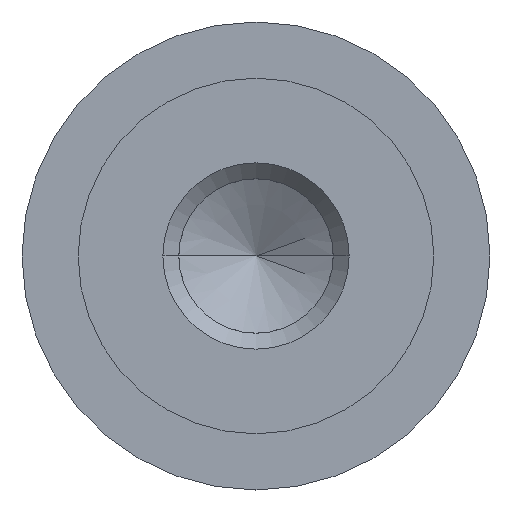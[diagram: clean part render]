
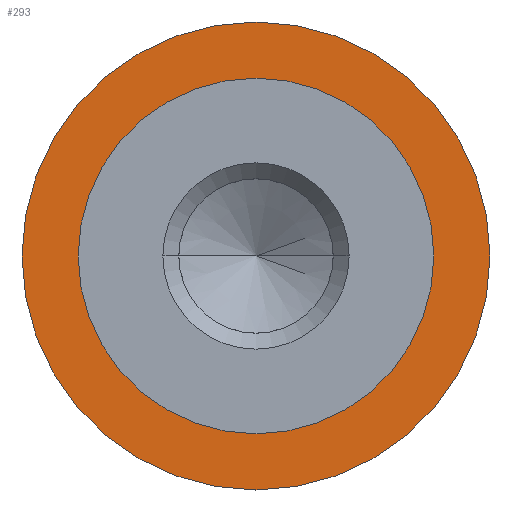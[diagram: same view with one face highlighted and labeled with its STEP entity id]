
A CAD part, left-side view. The second image highlights one B-rep face of the part: STEP entity #293.
In plain terms, the highlighted planar face has unit normal (-1, 0, 0).
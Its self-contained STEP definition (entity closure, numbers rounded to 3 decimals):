
#2 = FACE_OUTER_BOUND ( 'NONE', #50, .T. ) ;
#8 = PLANE ( 'NONE',  #307 ) ;
#35 = ORIENTED_EDGE ( 'NONE', *, *, #771, .T. ) ;
#50 = EDGE_LOOP ( 'NONE', ( #35, #472 ) ) ;
#55 = ORIENTED_EDGE ( 'NONE', *, *, #482, .F. ) ;
#70 = CARTESIAN_POINT ( 'NONE',  ( -10., 3.8, 0. ) ) ;
#102 = AXIS2_PLACEMENT_3D ( 'NONE', #638, #337, #571 ) ;
#155 = VERTEX_POINT ( 'NONE', #510 ) ;
#166 = CIRCLE ( 'NONE', #772, 3.8 ) ;
#169 = DIRECTION ( 'NONE',  ( 0., 0., 1. ) ) ;
#170 = CARTESIAN_POINT ( 'NONE',  ( -10., 0., 3.8 ) ) ;
#182 = VERTEX_POINT ( 'NONE', #170 ) ;
#183 = CIRCLE ( 'NONE', #733, 5. ) ;
#206 = DIRECTION ( 'NONE',  ( -1., 0., 0. ) ) ;
#237 = EDGE_LOOP ( 'NONE', ( #55, #741 ) ) ;
#242 = CARTESIAN_POINT ( 'NONE',  ( -10., 0., 0. ) ) ;
#255 = DIRECTION ( 'NONE',  ( 0., 0., 1. ) ) ;
#293 = ADVANCED_FACE ( 'NONE', ( #672, #2 ), #8, .F. ) ;
#307 = AXIS2_PLACEMENT_3D ( 'NONE', #70, #610, #372 ) ;
#337 = DIRECTION ( 'NONE',  ( -1., 0., 0. ) ) ;
#361 = EDGE_CURVE ( 'NONE', #155, #406, #554, .T. ) ;
#372 = DIRECTION ( 'NONE',  ( 0., 0., -1. ) ) ;
#406 = VERTEX_POINT ( 'NONE', #631 ) ;
#430 = EDGE_CURVE ( 'NONE', #698, #182, #525, .T. ) ;
#444 = DIRECTION ( 'NONE',  ( 0., 0., 1. ) ) ;
#472 = ORIENTED_EDGE ( 'NONE', *, *, #361, .T. ) ;
#482 = EDGE_CURVE ( 'NONE', #182, #698, #166, .T. ) ;
#484 = CARTESIAN_POINT ( 'NONE',  ( -10., 0., 0. ) ) ;
#510 = CARTESIAN_POINT ( 'NONE',  ( -10., 0., -5. ) ) ;
#525 = CIRCLE ( 'NONE', #102, 3.8 ) ;
#554 = CIRCLE ( 'NONE', #720, 5. ) ;
#571 = DIRECTION ( 'NONE',  ( 0., 0., 1. ) ) ;
#585 = CARTESIAN_POINT ( 'NONE',  ( -10., 0., -3.8 ) ) ;
#610 = DIRECTION ( 'NONE',  ( 1., 0., 0. ) ) ;
#615 = DIRECTION ( 'NONE',  ( -1., 0., 0. ) ) ;
#631 = CARTESIAN_POINT ( 'NONE',  ( -10., 0., 5. ) ) ;
#638 = CARTESIAN_POINT ( 'NONE',  ( -10., 0., 0. ) ) ;
#672 = FACE_BOUND ( 'NONE', #237, .T. ) ;
#680 = CARTESIAN_POINT ( 'NONE',  ( -10., 0., 0. ) ) ;
#698 = VERTEX_POINT ( 'NONE', #585 ) ;
#720 = AXIS2_PLACEMENT_3D ( 'NONE', #680, #206, #444 ) ;
#733 = AXIS2_PLACEMENT_3D ( 'NONE', #242, #780, #169 ) ;
#741 = ORIENTED_EDGE ( 'NONE', *, *, #430, .F. ) ;
#771 = EDGE_CURVE ( 'NONE', #406, #155, #183, .T. ) ;
#772 = AXIS2_PLACEMENT_3D ( 'NONE', #484, #615, #255 ) ;
#780 = DIRECTION ( 'NONE',  ( -1., 0., 0. ) ) ;
